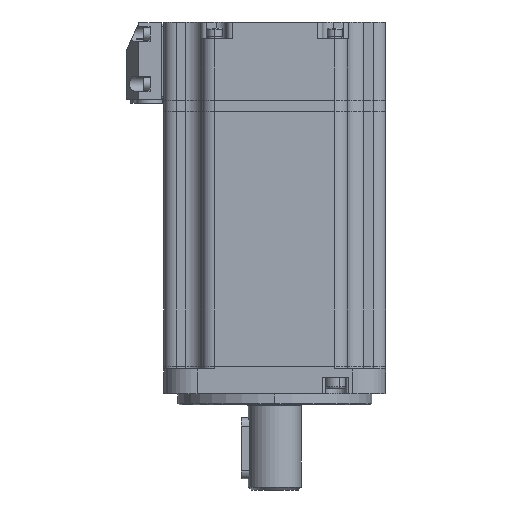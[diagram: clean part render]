
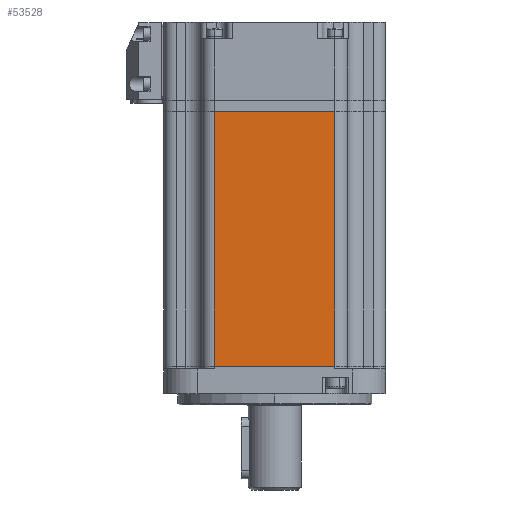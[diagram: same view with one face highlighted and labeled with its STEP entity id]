
A CAD part, left-side view. The second image highlights one B-rep face of the part: STEP entity #53528.
In plain terms, the highlighted planar face has unit normal (-1, 0, 0).
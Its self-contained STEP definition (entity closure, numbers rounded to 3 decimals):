
#1030 = VECTOR ( 'NONE', #2602, 1000. ) ;
#2602 = DIRECTION ( 'NONE',  ( 0., -1., 0. ) ) ;
#4070 = LINE ( 'NONE', #7094, #46417 ) ;
#7094 = CARTESIAN_POINT ( 'NONE',  ( -40., -21.75, 91.9 ) ) ;
#7646 = EDGE_CURVE ( 'NONE', #12945, #24714, #13361, .T. ) ;
#8393 = EDGE_CURVE ( 'NONE', #47351, #24714, #4070, .T. ) ;
#9374 = DIRECTION ( 'NONE',  ( 0., -1., 0. ) ) ;
#11562 = ORIENTED_EDGE ( 'NONE', *, *, #8393, .T. ) ;
#12084 = VECTOR ( 'NONE', #21192, 1000. ) ;
#12224 = LINE ( 'NONE', #27905, #1030 ) ;
#12945 = VERTEX_POINT ( 'NONE', #42440 ) ;
#13361 = LINE ( 'NONE', #51785, #34569 ) ;
#16352 = PLANE ( 'NONE',  #25450 ) ;
#19657 = EDGE_CURVE ( 'NONE', #35476, #47351, #12224, .T. ) ;
#21192 = DIRECTION ( 'NONE',  ( 0., 0., -1. ) ) ;
#24541 = CARTESIAN_POINT ( 'NONE',  ( -40., 21.75, 0. ) ) ;
#24714 = VERTEX_POINT ( 'NONE', #33233 ) ;
#24880 = DIRECTION ( 'NONE',  ( 0., 1., 0. ) ) ;
#25450 = AXIS2_PLACEMENT_3D ( 'NONE', #33226, #50234, #24880 ) ;
#27490 = EDGE_CURVE ( 'NONE', #12945, #35476, #45899, .T. ) ;
#27536 = ORIENTED_EDGE ( 'NONE', *, *, #19657, .T. ) ;
#27905 = CARTESIAN_POINT ( 'NONE',  ( -40., 26.25, 0. ) ) ;
#29740 = CARTESIAN_POINT ( 'NONE',  ( -40., 21.75, 91.9 ) ) ;
#33226 = CARTESIAN_POINT ( 'NONE',  ( -40., 26.25, 91.9 ) ) ;
#33233 = CARTESIAN_POINT ( 'NONE',  ( -40., -21.75, 91.9 ) ) ;
#34481 = EDGE_LOOP ( 'NONE', ( #52476, #47097, #27536, #11562 ) ) ;
#34569 = VECTOR ( 'NONE', #9374, 1000. ) ;
#35476 = VERTEX_POINT ( 'NONE', #24541 ) ;
#42440 = CARTESIAN_POINT ( 'NONE',  ( -40., 21.75, 91.9 ) ) ;
#43403 = CARTESIAN_POINT ( 'NONE',  ( -40., -21.75, 0. ) ) ;
#45899 = LINE ( 'NONE', #29740, #12084 ) ;
#46417 = VECTOR ( 'NONE', #49452, 1000. ) ;
#47097 = ORIENTED_EDGE ( 'NONE', *, *, #27490, .T. ) ;
#47351 = VERTEX_POINT ( 'NONE', #43403 ) ;
#48210 = FACE_OUTER_BOUND ( 'NONE', #34481, .T. ) ;
#49452 = DIRECTION ( 'NONE',  ( 0., 0., 1. ) ) ;
#50234 = DIRECTION ( 'NONE',  ( 1., 0., 0. ) ) ;
#51785 = CARTESIAN_POINT ( 'NONE',  ( -40., 26.25, 91.9 ) ) ;
#52476 = ORIENTED_EDGE ( 'NONE', *, *, #7646, .F. ) ;
#53528 = ADVANCED_FACE ( 'NONE', ( #48210 ), #16352, .F. ) ;
